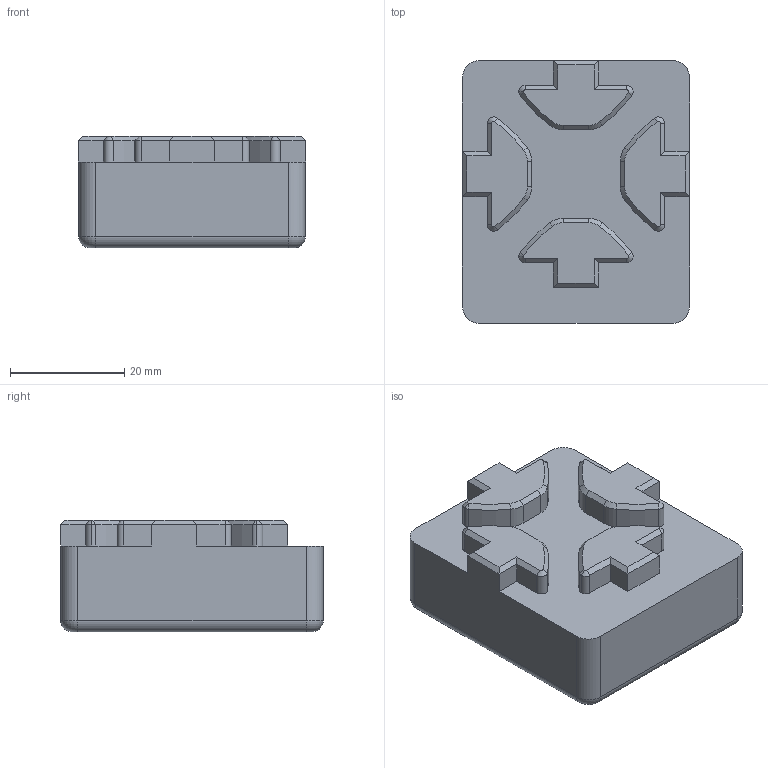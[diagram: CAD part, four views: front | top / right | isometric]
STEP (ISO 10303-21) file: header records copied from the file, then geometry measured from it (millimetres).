
FILE_DESCRIPTION (( 'STEP AP214' ), '1' );
FILE_NAME ('Porta balero SP.STEP', '2019-05-12T01:51:04', ( '' ), ( '' ), 'SwSTEP 2.0', 'SolidWorks 2018', '' );
FILE_SCHEMA (( 'AUTOMOTIVE_DESIGN' ));
Length unit declared in the file: millimetre
Products named in the file (1): Porta balero SP
Bounding box: 39.75 x 46 x 19.5 mm (x, y, z)
Volume: 26960.7 mm3; surface area: 7640.9 mm2
Topology: 1 solids, 1 shells, 130 faces, 313 edges, 189 vertices
Faces by surface type: plane 58, cylinder 41, cone 26, torus 5
Entity records: 3818 total; most frequent: CARTESIAN_POINT 691, DIRECTION 680, ORIENTED_EDGE 626, EDGE_CURVE 313, AXIS2_PLACEMENT_3D 240, LINE 200, VECTOR 200, VERTEX_POINT 189
